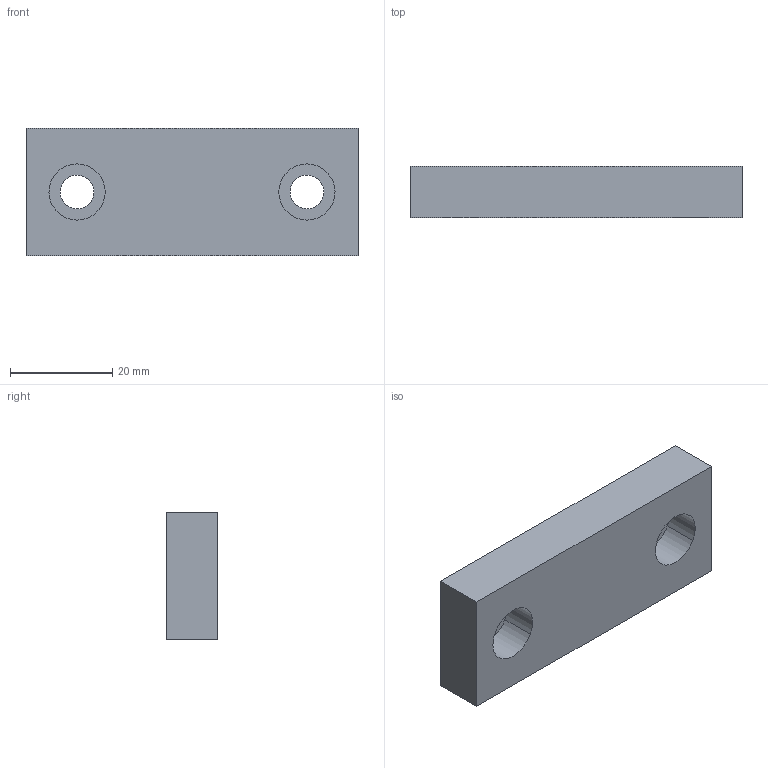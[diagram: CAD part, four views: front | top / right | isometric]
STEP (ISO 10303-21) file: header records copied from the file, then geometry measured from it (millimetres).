
FILE_DESCRIPTION(('CATIA V5 STEP Exchange','CAx-IF Rec.Pracs.--- Model Styling and Organization---1.5--- 2016-08-15','CAx-IF Rec.Pracs.---Supplemental Geometry---1.0---2011-11-01','CAx-IF Rec.Pracs.--- Composite Materials ---1.1---2010-07-15','CAx-IF Rec.Pracs.---External References---2.1---2005-01-19'),'2;1');
FILE_NAME('E:\WAT\Sprezarka\121_00_00_Tlocznik1\Tlocznik1_KPL\Tlocznik1_stp\121_01_05_Plytka_slizgowa.stp','2023-08-01T08:49:43+00:00',('none'),('none'),'CATIA Version 5-6 Release 2022 SP3','CATIA V5 STEP AP214 v2','none');
FILE_SCHEMA(('AUTOMOTIVE_DESIGN { 1 0 10303 214 1 1 1 1 }'));
Length unit declared in the file: millimetre
Products named in the file (1): 121_01_05_Plytka_slizgowa
Bounding box: 65 x 10 x 25 mm (x, y, z)
Volume: 14714.3 mm3; surface area: 5521.4 mm2
Topology: 1 solids, 1 shells, 16 faces, 36 edges, 24 vertices
Faces by surface type: cylinder 8, plane 8
Entity records: 444 total; most frequent: CARTESIAN_POINT 72, ORIENTED_EDGE 72, DIRECTION 58, EDGE_CURVE 36, AXIS2_PLACEMENT_3D 28, VERTEX_POINT 24, EDGE_LOOP 22, VECTOR 20
